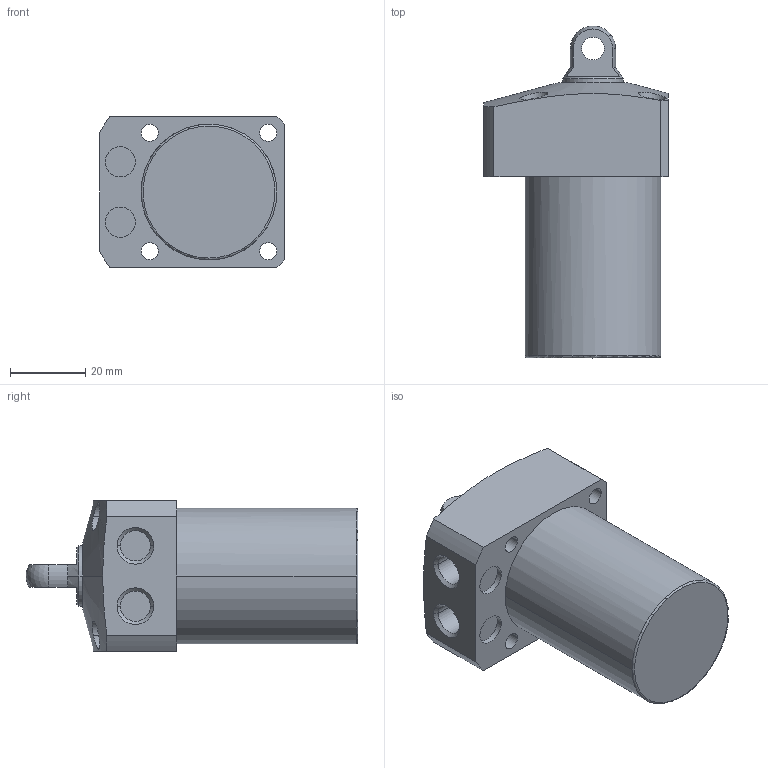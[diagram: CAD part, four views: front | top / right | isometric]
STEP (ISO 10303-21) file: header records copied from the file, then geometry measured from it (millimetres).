
FILE_DESCRIPTION((' '),'2;1');
FILE_NAME( 'TLL-036CP-040.STEP.stp', '2025-10-24T16:39:40', (' '), ('--- Datakit www.datakit.com---'), ' Datakit CrossCadWare V2024.1 Dec 21 2023', 'Mastercam 2025', ' ');
FILE_SCHEMA(('AUTOMOTIVE_DESIGN { 1 0 10303 214 1 1 1 1 }'));
Length unit declared in the file: millimetre
Products named in the file (1): TLL-036CP-040
Bounding box: 49 x 87.99 x 40 mm (x, y, z)
Volume: 90246.8 mm3; surface area: 15476.5 mm2
Topology: 1 solids, 1 shells, 67 faces, 202 edges, 145 vertices
Faces by surface type: cylinder 34, plane 21, cone 8, sphere 2, torus 2
Entity records: 4728 total; most frequent: CARTESIAN_POINT 2793, DIRECTION 418, ORIENTED_EDGE 400, EDGE_CURVE 200, AXIS2_PLACEMENT_3D 180, VERTEX_POINT 145, CIRCLE 112, EDGE_LOOP 87
